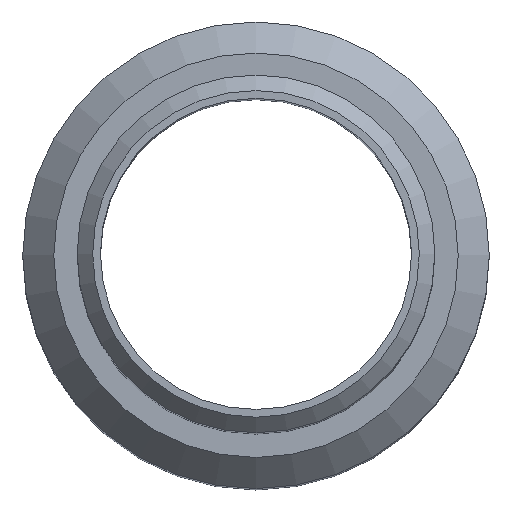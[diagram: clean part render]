
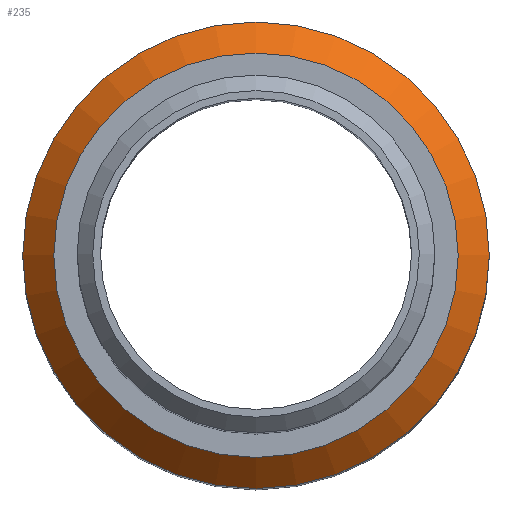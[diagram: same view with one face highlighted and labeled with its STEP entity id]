
A CAD part, top view. The second image highlights one B-rep face of the part: STEP entity #235.
In plain terms, the highlighted conical face has half-angle 45 degrees and reference radius 15 mm.
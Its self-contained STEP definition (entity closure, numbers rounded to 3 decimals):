
#195 = VERTEX_POINT('',#196);
#196 = CARTESIAN_POINT('',(15.,0.,52.));
#202 = EDGE_CURVE('',#195,#195,#203,.T.);
#203 = CIRCLE('',#204,15.);
#204 = AXIS2_PLACEMENT_3D('',#205,#206,#207);
#205 = CARTESIAN_POINT('',(0.,0.,52.));
#206 = DIRECTION('',(0.,0.,1.));
#207 = DIRECTION('',(1.,0.,0.));
#235 = ADVANCED_FACE('',(#236),#255,.T.);
#236 = FACE_BOUND('',#237,.F.);
#237 = EDGE_LOOP('',(#238,#246,#253,#254));
#238 = ORIENTED_EDGE('',*,*,#239,.F.);
#239 = EDGE_CURVE('',#240,#195,#242,.T.);
#240 = VERTEX_POINT('',#241);
#241 = CARTESIAN_POINT('',(13.,0.,54.));
#242 = LINE('',#243,#244);
#243 = CARTESIAN_POINT('',(15.,0.,52.));
#244 = VECTOR('',#245,1.);
#245 = DIRECTION('',(0.707,0.,-0.707));
#246 = ORIENTED_EDGE('',*,*,#247,.T.);
#247 = EDGE_CURVE('',#240,#240,#248,.T.);
#248 = CIRCLE('',#249,13.);
#249 = AXIS2_PLACEMENT_3D('',#250,#251,#252);
#250 = CARTESIAN_POINT('',(0.,0.,54.));
#251 = DIRECTION('',(0.,0.,1.));
#252 = DIRECTION('',(1.,0.,0.));
#253 = ORIENTED_EDGE('',*,*,#239,.T.);
#254 = ORIENTED_EDGE('',*,*,#202,.F.);
#255 = CONICAL_SURFACE('',#256,15.,0.785);
#256 = AXIS2_PLACEMENT_3D('',#257,#258,#259);
#257 = CARTESIAN_POINT('',(0.,0.,52.));
#258 = DIRECTION('',(-0.,-0.,-1.));
#259 = DIRECTION('',(1.,0.,0.));
